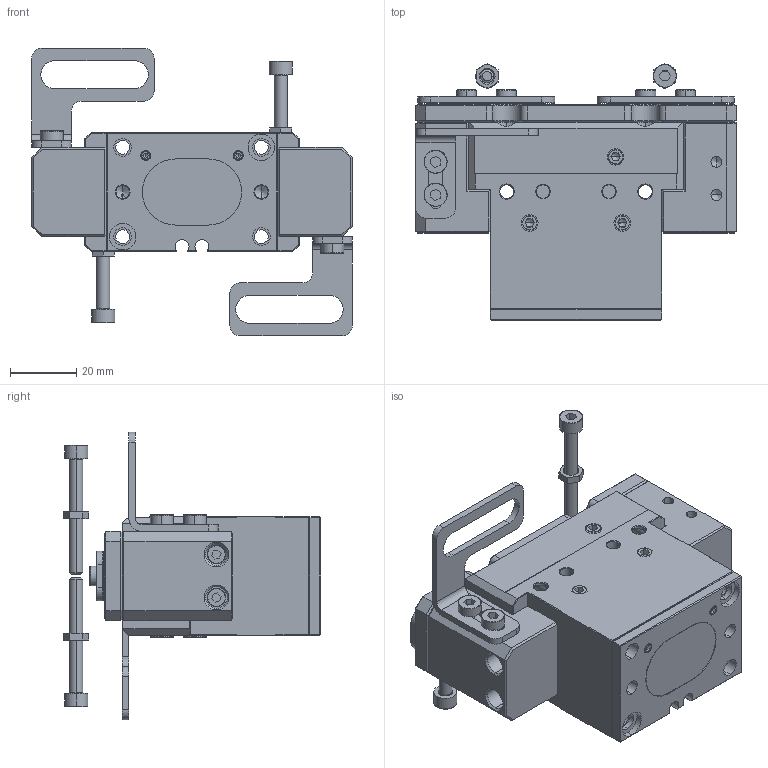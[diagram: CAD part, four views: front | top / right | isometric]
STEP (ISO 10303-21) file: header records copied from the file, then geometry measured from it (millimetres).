
FILE_DESCRIPTION (( 'STEP AP203' ), '1' );
FILE_NAME ('EZ6-NO-F.STEP', '2026-09-23T06:54:53', ( '' ), ( '' ), 'SwSTEP 2.0', 'SolidWorks 2026', '' );
FILE_SCHEMA (( 'CONFIG_CONTROL_DESIGN' ));
Length unit declared in the file: millimetre
Products named in the file (1): EZ6-NO-F
Bounding box: 97 x 77.79 x 87 mm (x, y, z)
Volume: 138481.6 mm3; surface area: 58611.2 mm2
Topology: 39 solids, 39 shells, 1525 faces, 3743 edges, 2334 vertices
Faces by surface type: plane 718, cylinder 380, cone 321, bspline 106
Entity records: 48461 total; most frequent: CARTESIAN_POINT 12535, DIRECTION 7489, ORIENTED_EDGE 7378, EDGE_CURVE 3689, AXIS2_PLACEMENT_3D 2658, VERTEX_POINT 2334, VECTOR 2173, LINE 2173
